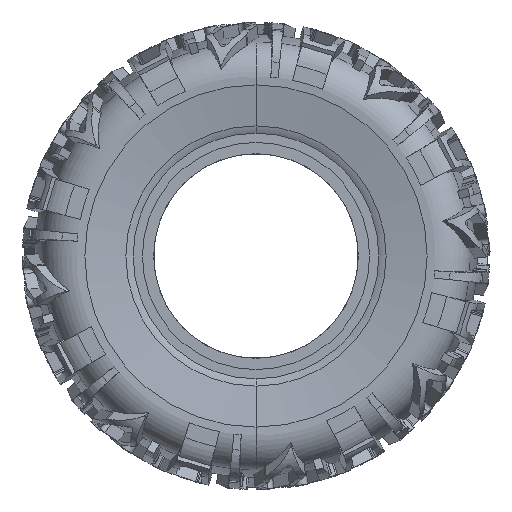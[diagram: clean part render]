
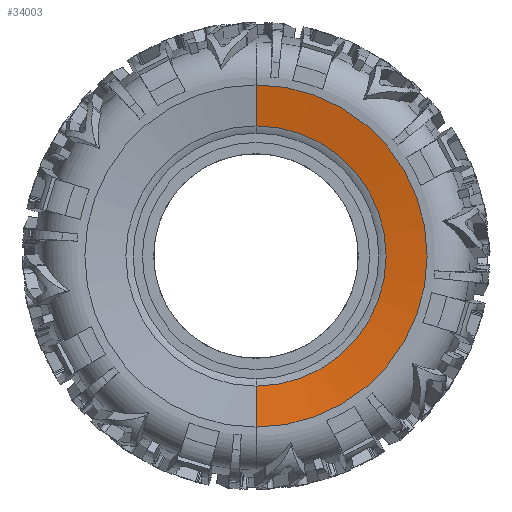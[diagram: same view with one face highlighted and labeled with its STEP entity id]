
A CAD part, left-side view. The second image highlights one B-rep face of the part: STEP entity #34003.
In plain terms, the highlighted conical face has half-angle 79.758 degrees and reference radius 35.281 mm.
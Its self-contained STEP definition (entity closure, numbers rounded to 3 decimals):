
#67 = CARTESIAN_POINT ( 'NONE',  ( -0.18, 83.098, 106.83 ) ) ;
#1081 = CARTESIAN_POINT ( 'NONE',  ( -0.18, 83.098, 71.549 ) ) ;
#2830 = VERTEX_POINT ( 'NONE', #1081 ) ;
#3728 = EDGE_LOOP ( 'NONE', ( #41052, #23426, #24155, #5551 ) ) ;
#5551 = ORIENTED_EDGE ( 'NONE', *, *, #20183, .F. ) ;
#5648 = LINE ( 'NONE', #54037, #53165 ) ;
#9858 = DIRECTION ( 'NONE',  ( -1., 0., 0. ) ) ;
#12763 = CIRCLE ( 'NONE', #32941, 35.281 ) ;
#17527 = DIRECTION ( 'NONE',  ( -1., 0., 0. ) ) ;
#19192 = EDGE_CURVE ( 'NONE', #29007, #25676, #42559, .T. ) ;
#20183 = EDGE_CURVE ( 'NONE', #42094, #25676, #26647, .T. ) ;
#20596 = AXIS2_PLACEMENT_3D ( 'NONE', #67, #23194, #22815 ) ;
#20798 = CARTESIAN_POINT ( 'NONE',  ( -2.19, 83.098, 60.426 ) ) ;
#21964 = CONICAL_SURFACE ( 'NONE', #20596, 35.281, 1.392 ) ;
#22815 = DIRECTION ( 'NONE',  ( 0., 0., 1. ) ) ;
#23194 = DIRECTION ( 'NONE',  ( -1., 0., 0. ) ) ;
#23426 = ORIENTED_EDGE ( 'NONE', *, *, #49969, .T. ) ;
#23521 = CARTESIAN_POINT ( 'NONE',  ( -2.19, 83.098, 153.233 ) ) ;
#24155 = ORIENTED_EDGE ( 'NONE', *, *, #19192, .T. ) ;
#25676 = VERTEX_POINT ( 'NONE', #23521 ) ;
#26647 = LINE ( 'NONE', #53666, #55498 ) ;
#29007 = VERTEX_POINT ( 'NONE', #20798 ) ;
#32941 = AXIS2_PLACEMENT_3D ( 'NONE', #51290, #9858, #51099 ) ;
#34003 = ADVANCED_FACE ( 'NONE', ( #52229 ), #21964, .F. ) ;
#36235 = DIRECTION ( 'NONE',  ( 0., 0., 1. ) ) ;
#38748 = AXIS2_PLACEMENT_3D ( 'NONE', #45095, #17527, #36235 ) ;
#39787 = CARTESIAN_POINT ( 'NONE',  ( -0.18, 83.098, 142.11 ) ) ;
#41052 = ORIENTED_EDGE ( 'NONE', *, *, #51135, .F. ) ;
#42094 = VERTEX_POINT ( 'NONE', #39787 ) ;
#42559 = CIRCLE ( 'NONE', #38748, 46.404 ) ;
#44749 = DIRECTION ( 'NONE',  ( -0.178, 0., 0.984 ) ) ;
#45095 = CARTESIAN_POINT ( 'NONE',  ( -2.19, 83.098, 106.83 ) ) ;
#49356 = DIRECTION ( 'NONE',  ( -0.178, 0., -0.984 ) ) ;
#49969 = EDGE_CURVE ( 'NONE', #2830, #29007, #5648, .T. ) ;
#51099 = DIRECTION ( 'NONE',  ( 0., 0., 1. ) ) ;
#51135 = EDGE_CURVE ( 'NONE', #2830, #42094, #12763, .T. ) ;
#51290 = CARTESIAN_POINT ( 'NONE',  ( -0.18, 83.098, 106.83 ) ) ;
#52229 = FACE_OUTER_BOUND ( 'NONE', #3728, .T. ) ;
#53165 = VECTOR ( 'NONE', #49356, 1000. ) ;
#53666 = CARTESIAN_POINT ( 'NONE',  ( -0.18, 83.098, 142.11 ) ) ;
#54037 = CARTESIAN_POINT ( 'NONE',  ( -0.18, 83.098, 71.549 ) ) ;
#55498 = VECTOR ( 'NONE', #44749, 1000. ) ;
